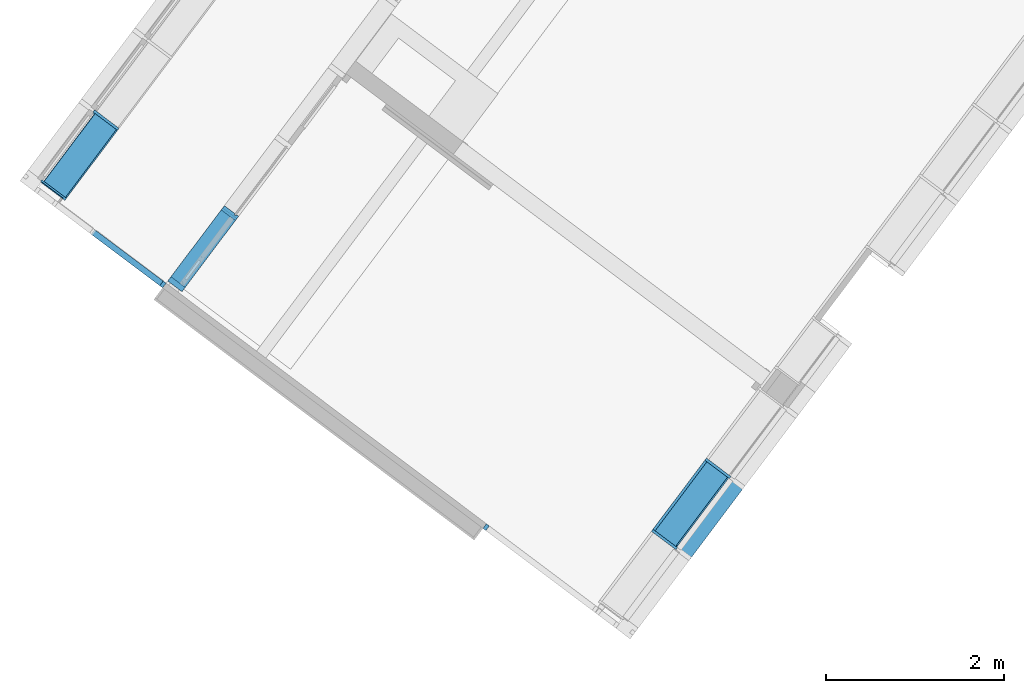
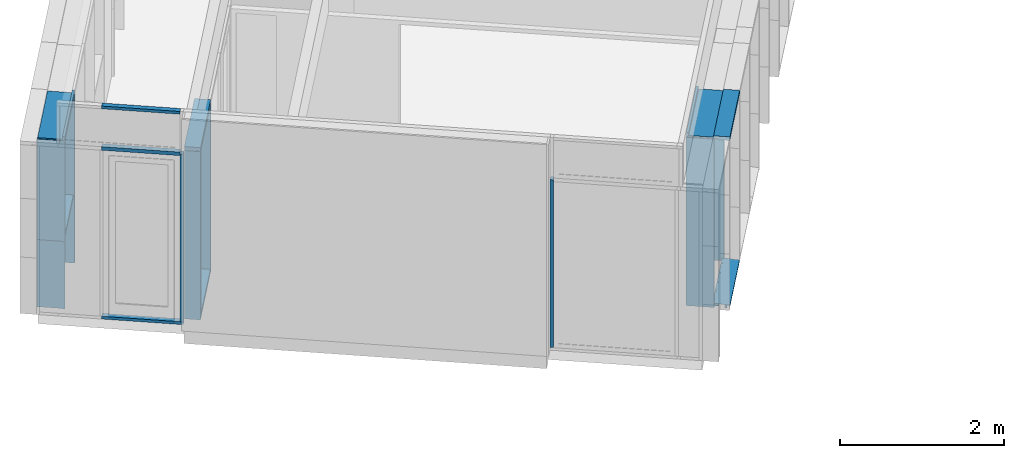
# One storey, part 36 of 243: 20 members, 6 elements without a shape of their own.
"""IFC2X3 building model written with IfcOpenShell, lengths in metres."""

import ifcopenshell
import ifcopenshell.guid

model = None  # the IFC model being written
_history = None  # IfcOwnerHistory: only IFC2X3 demands one
_inside = {}  # id of a spatial element -> (the spatial element, [elements in it])
_under = {}  # id of a project, library or spatial element -> (it, [spatial elements below it])
_declared = {}  # id of a project -> (the project, [libraries it declares])
_typed = {}  # id of a type object -> (the type object, [elements of that type])
_made_of = {}  # id of a material, layer set ... -> (it, [elements and type objects made of it])


def new_model(schema):
    """Start an empty IFC model of exactly this schema.

    Asked for "IFC4X3", IfcOpenShell would pick the latest addendum, in which some entities
    have other attributes; the version numbers below select the first issue.
    IFC2X3 requires an IfcOwnerHistory on every rooted entity: one is made here for all.
    """
    global model, _history
    if schema == "IFC4X3":
        model = ifcopenshell.file(schema_version=(4, 3, 0, 0))
    else:
        model = ifcopenshell.file(schema=schema)
    _inside.clear()
    _under.clear()
    _declared.clear()
    _typed.clear()
    _made_of.clear()
    _history = None
    if model.schema == "IFC2X3":
        org = make("IfcOrganization", Name="unknown")
        user = make(
            "IfcPersonAndOrganization",
            ThePerson=make("IfcPerson", FamilyName="unknown"),
            TheOrganization=org,
        )
        app = make(
            "IfcApplication",
            ApplicationDeveloper=org,
            Version="unknown",
            ApplicationFullName="unknown",
            ApplicationIdentifier="unknown",
        )
        _history = make(
            "IfcOwnerHistory",
            OwningUser=user,
            OwningApplication=app,
            ChangeAction="ADDED",
            CreationDate=0,
        )
    return model


def make(cls, **values):
    """One entity of the class cls with the attributes given. An attribute that is None is left unset."""
    return model.create_entity(
        cls, **{name: value for name, value in values.items() if value is not None}
    )


def entity(cls, *values):
    """Any entity or typed value of the class cls, its attributes in the order of the schema. None: left unset."""
    e = model.create_entity(cls)
    for i, value in enumerate(values):
        if value is not None:
            e[i] = value
    return e


def rooted(cls, **values):
    """An entity with a GlobalId (a new one), such as an element, a storey or a relation."""
    return make(cls, GlobalId=ifcopenshell.guid.new(), OwnerHistory=_history, **values)


def si_unit(unit_type, name, prefix=None):
    """IfcSIUnit, for example si_unit("LENGTHUNIT", "METRE", prefix="MILLI")."""
    return make("IfcSIUnit", UnitType=unit_type, Prefix=prefix, Name=name)


def converted_unit(unit_type, name, factor, base, dimensions=None, offset=None):
    """IfcConversionBasedUnit, such as the inch: factor (a typed value) times the base unit."""
    return make(
        "IfcConversionBasedUnit"
        if offset is None
        else "IfcConversionBasedUnitWithOffset",
        ConversionOffset=offset,
        Dimensions=None
        if dimensions is None
        else entity("IfcDimensionalExponents", *dimensions),
        UnitType=unit_type,
        Name=name,
        ConversionFactor=make(
            "IfcMeasureWithUnit", ValueComponent=factor, UnitComponent=base
        ),
    )


def derived_unit(unit_type, elements):
    """IfcDerivedUnit: a product of units, each with its exponent."""
    return make(
        "IfcDerivedUnit",
        Elements=[
            make("IfcDerivedUnitElement", Unit=unit, Exponent=power)
            for unit, power in elements
        ],
        UnitType=unit_type,
    )


def assignment(units):
    """IfcUnitAssignment: the units of a project."""
    return None if units is None else make("IfcUnitAssignment", Units=units)


def point(xyz):
    """IfcCartesianPoint."""
    return None if xyz is None else make("IfcCartesianPoint", Coordinates=xyz)


def direction(xyz):
    """IfcDirection."""
    return None if xyz is None else make("IfcDirection", DirectionRatios=xyz)


def frame(location, z_axis=None, x_axis=None):
    """IfcAxis2Placement3D, a coordinate frame: its origin and axes. An axis left out is left unset."""
    return make(
        "IfcAxis2Placement3D",
        Location=point(location),
        Axis=direction(z_axis),
        RefDirection=direction(x_axis),
    )


def frame_2d(location, x_axis=None):
    """IfcAxis2Placement2D, a coordinate frame in the plane: its origin and x axis."""
    return make(
        "IfcAxis2Placement2D", Location=point(location), RefDirection=direction(x_axis)
    )


def origin():
    """The frame at (0, 0, 0) with its axes left unset."""
    return frame((0.0, 0.0, 0.0))


def origin_2d_with_axis():
    """The frame at (0, 0) in the plane with the x axis (1, 0) written out."""
    return frame_2d((0.0, 0.0), x_axis=(1.0, 0.0))


def place(relative_to, where):
    """IfcLocalPlacement: puts the frame where relative to a parent placement (None: the world)."""
    return make(
        "IfcLocalPlacement", PlacementRelTo=relative_to, RelativePlacement=where
    )


def context(
    kind, dimensions, precision=None, world=None, true_north=None, identifier=None
):
    """IfcGeometricRepresentationContext, for example the 3D "Model" context."""
    return make(
        "IfcGeometricRepresentationContext",
        ContextIdentifier=identifier,
        ContextType=kind,
        CoordinateSpaceDimension=dimensions,
        Precision=precision,
        WorldCoordinateSystem=world,
        TrueNorth=true_north,
    )


def subcontext(parent, identifier, kind, view, scale=None):
    """IfcGeometricRepresentationSubContext, for example "Body" below "Model"."""
    return make(
        "IfcGeometricRepresentationSubContext",
        ContextIdentifier=identifier,
        ContextType=kind,
        ParentContext=parent,
        TargetScale=scale,
        TargetView=view,
    )


def project(units=None, contexts=None):
    """IfcProject with its units and contexts."""
    return rooted(
        "IfcProject",
        Name="project",
        RepresentationContexts=contexts,
        UnitsInContext=assignment(units),
    )


def spatial(cls, under=None, at=None, **own):
    """A site, building, storey or space (cls), placed at a placement, below another one or the project."""
    s = rooted(cls, ObjectPlacement=at, **own)
    if under is not None:
        _under.setdefault(under.id(), (under, []))[1].append(s)
    return s


def polyline(points):
    """IfcPolyline through the points."""
    return make("IfcPolyline", Points=[point(p) for p in points])


def circle_curve(where, radius):
    """IfcCircle in the frame where."""
    return make("IfcCircle", Position=where, Radius=radius)


def parameter(value):
    """IfcParameterValue: where a trimmed curve begins or ends, as a parameter of its basis curve."""
    return model.create_entity("IfcParameterValue", value)


def trimmed(basis, trim1, trim2, sense, master):
    """IfcTrimmedCurve: the piece of a basis curve between two trims."""
    return make(
        "IfcTrimmedCurve",
        BasisCurve=basis,
        Trim1=trim1,
        Trim2=trim2,
        SenseAgreement=sense,
        MasterRepresentation=master,
    )


def segment(curve, same_sense, transition):
    """IfcCompositeCurveSegment."""
    return make(
        "IfcCompositeCurveSegment",
        Transition=transition,
        SameSense=same_sense,
        ParentCurve=curve,
    )


def composite_curve(segments, self_intersect=None):
    """IfcCompositeCurve: segments joined end to end."""
    return make("IfcCompositeCurve", Segments=segments, SelfIntersect=self_intersect)


def profile(cls, at=None, kind="AREA", **sizes):
    """A parametric profile (cls). Its sizes go by their IFC names, for example OverallWidth=200.0."""
    return make(cls, ProfileType=kind, Position=at, **sizes)


def rectangle(**sizes):
    """IfcRectangleProfileDef."""
    return profile("IfcRectangleProfileDef", **sizes)


def outline(outer, holes=None, kind="AREA"):
    """IfcArbitraryClosedProfileDef: a profile drawn as a closed curve; with holes, ...WithVoids."""
    if holes is None:
        return make("IfcArbitraryClosedProfileDef", ProfileType=kind, OuterCurve=outer)
    return make(
        "IfcArbitraryProfileDefWithVoids",
        ProfileType=kind,
        OuterCurve=outer,
        InnerCurves=holes,
    )


def extrude(swept, where, along, depth):
    """IfcExtrudedAreaSolid: the profile swept, set in the frame where, extruded along a direction by depth."""
    return make(
        "IfcExtrudedAreaSolid",
        SweptArea=swept,
        Position=where,
        ExtrudedDirection=direction(along),
        Depth=depth,
    )


def shape(context_of_items, identifier, shape_type, items):
    """IfcShapeRepresentation: the items that make up one representation, for example the "Body"."""
    return make(
        "IfcShapeRepresentation",
        ContextOfItems=context_of_items,
        RepresentationIdentifier=identifier,
        RepresentationType=shape_type,
        Items=items,
    )


def source(mapping_origin, context_of_items, identifier, shape_type, items):
    """IfcRepresentationMap: a shape defined once, which mapped items show again and again."""
    return make(
        "IfcRepresentationMap",
        MappingOrigin=mapping_origin,
        MappedRepresentation=shape(context_of_items, identifier, shape_type, items),
    )


def transform(
    local_origin,
    x_axis=None,
    y_axis=None,
    z_axis=None,
    scale=None,
    scale2=None,
    scale3=None,
    uniform=True,
):
    """IfcCartesianTransformationOperator3D, or its non-uniform kind. x_axis, y_axis, z_axis: its Axis1, 2, 3."""
    if uniform:
        return make(
            "IfcCartesianTransformationOperator3D",
            Axis1=direction(x_axis),
            Axis2=direction(y_axis),
            LocalOrigin=point(local_origin),
            Scale=scale,
            Axis3=direction(z_axis),
        )
    return make(
        "IfcCartesianTransformationOperator3DnonUniform",
        Axis1=direction(x_axis),
        Axis2=direction(y_axis),
        LocalOrigin=point(local_origin),
        Scale=scale,
        Axis3=direction(z_axis),
        Scale2=scale2,
        Scale3=scale3,
    )


def mapped(mapping_source, mapping_target):
    """IfcMappedItem: shows the shape of a source again, moved by a transform."""
    return make(
        "IfcMappedItem", MappingSource=mapping_source, MappingTarget=mapping_target
    )


def material(Name=None, Category=None):
    """IfcMaterial."""
    return make("IfcMaterial", Name=Name, Category=Category)


def made_of(thing, what):
    """Note that an element or type object is made of a material, layer set ...; save() writes the relation."""
    if what is not None:
        _made_of.setdefault(what.id(), (what, []))[1].append(thing)
    return thing


def type_object(cls, material=None, **own):
    """A type object (cls), such as IfcWallType, which elements share."""
    return made_of(rooted(cls, **own), material)


def type_shapes(of_type, sources):
    """Give a type object the sources (RepresentationMaps) that its elements show as mapped items."""
    of_type.RepresentationMaps = sources


def element(
    cls,
    number,
    at=None,
    inside=None,
    cuts=None,
    type_object=None,
    material=None,
    context=None,
    identifier="Body",
    shape_type=None,
    held_by="IfcProductDefinitionShape",
    body=None,
    shapes=None,
    **own,
):
    """One element of the class cls, such as IfcWall. Its Tag is "e" and its number.

    at: its placement. inside: the storey or other place that contains it. cuts: it is an
    opening in that element (IfcRelVoidsElement). A single representation is given by context,
    identifier, shape_type and body (its items); several are given by shapes. held_by: the class
    of the entity that holds the representations. save() writes the other relations.
    """
    e = rooted(cls, Tag="e%d" % number, ObjectPlacement=at, **own)
    if body is not None:
        shapes = [shape(context, identifier, shape_type, body)]
    if shapes is not None:
        e.Representation = make(held_by, Representations=shapes)
    if inside is not None:
        _inside.setdefault(inside.id(), (inside, []))[1].append(e)
    if cuts is not None:
        rooted(
            "IfcRelVoidsElement", RelatingBuildingElement=cuts, RelatedOpeningElement=e
        )
    if type_object is not None:
        _typed.setdefault(type_object.id(), (type_object, []))[1].append(e)
    return made_of(e, material)


def aggregate(whole, parts):
    """IfcRelAggregates: a whole, such as a stair, and the parts it consists of."""
    return rooted("IfcRelAggregates", RelatingObject=whole, RelatedObjects=parts)


def save(model, path):
    """Write the relations noted so far, then the file.

    IfcRelAggregates (storeys below a building ...), IfcRelContainedInSpatialStructure (elements
    in a storey), IfcRelDefinesByType, IfcRelAssociatesMaterial and IfcRelDeclares: one each for
    every whole, place, type object, material and project.
    """
    for whole, parts in _under.values():
        aggregate(whole, parts)
    for where, things in _inside.values():
        rooted(
            "IfcRelContainedInSpatialStructure",
            RelatedElements=things,
            RelatingStructure=where,
        )
    for kind, things in _typed.values():
        rooted("IfcRelDefinesByType", RelatedObjects=things, RelatingType=kind)
    for what, things in _made_of.values():
        rooted("IfcRelAssociatesMaterial", RelatedObjects=things, RelatingMaterial=what)
    for by, libraries in _declared.values():
        rooted("IfcRelDeclares", RelatingContext=by, RelatedDefinitions=libraries)
    model.write(path)


model = new_model("IFC2X3")

# Units and contexts
model_context = context("Model", 3, precision=1e-05, world=origin(), true_north=direction((6.123031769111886e-17, 1.0)))
body_context = subcontext(model_context, "Body", "Model", "MODEL_VIEW")
ifc_project = project(units=[si_unit("LENGTHUNIT", "METRE"), si_unit("AREAUNIT", "SQUARE_METRE"), si_unit("VOLUMEUNIT", "CUBIC_METRE"), converted_unit("PLANEANGLEUNIT", "DEGREE", entity("IfcRatioMeasure", 0.017453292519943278), si_unit("PLANEANGLEUNIT", "RADIAN"), dimensions=[0, 0, 0, 0, 0, 0, 0]), si_unit("MASSUNIT", "GRAM", prefix="KILO"), derived_unit("MASSDENSITYUNIT", [(si_unit("MASSUNIT", "GRAM", prefix="KILO"), 1), (si_unit("LENGTHUNIT", "METRE"), -3)]), derived_unit("IONCONCENTRATIONUNIT", [(si_unit("MASSUNIT", "GRAM", prefix="KILO"), 1), (si_unit("LENGTHUNIT", "METRE"), -3)]), derived_unit("MOMENTOFINERTIAUNIT", [(si_unit("LENGTHUNIT", "METRE"), 4)]), si_unit("TIMEUNIT", "SECOND"), si_unit("FREQUENCYUNIT", "HERTZ"), si_unit("THERMODYNAMICTEMPERATUREUNIT", "DEGREE_CELSIUS"), derived_unit("THERMALTRANSMITTANCEUNIT", [(si_unit("MASSUNIT", "GRAM", prefix="KILO"), 1), (si_unit("THERMODYNAMICTEMPERATUREUNIT", "KELVIN"), -1), (si_unit("TIMEUNIT", "SECOND"), -3)]), derived_unit("THERMALCONDUCTANCEUNIT", [(si_unit("MASSUNIT", "GRAM", prefix="KILO"), 1), (si_unit("THERMODYNAMICTEMPERATUREUNIT", "KELVIN"), -1), (si_unit("TIMEUNIT", "SECOND"), -3), (si_unit("LENGTHUNIT", "METRE"), 1)]), derived_unit("VOLUMETRICFLOWRATEUNIT", [(si_unit("LENGTHUNIT", "METRE"), 3), (si_unit("TIMEUNIT", "SECOND"), -1)]), derived_unit("MASSFLOWRATEUNIT", [(si_unit("MASSUNIT", "GRAM", prefix="KILO"), 1), (si_unit("TIMEUNIT", "SECOND"), -1)]), derived_unit("ROTATIONALFREQUENCYUNIT", [(si_unit("TIMEUNIT", "SECOND"), -1)]), si_unit("ELECTRICCURRENTUNIT", "AMPERE"), si_unit("ELECTRICVOLTAGEUNIT", "VOLT"), si_unit("POWERUNIT", "WATT"), si_unit("FORCEUNIT", "NEWTON", prefix="KILO"), si_unit("ILLUMINANCEUNIT", "LUX"), si_unit("LUMINOUSFLUXUNIT", "LUMEN"), si_unit("LUMINOUSINTENSITYUNIT", "CANDELA"), derived_unit("USERDEFINED", [(si_unit("MASSUNIT", "GRAM", prefix="KILO"), -1), (si_unit("LENGTHUNIT", "METRE"), -2), (si_unit("TIMEUNIT", "SECOND"), 3), (si_unit("LUMINOUSFLUXUNIT", "LUMEN"), 1)]), derived_unit("USERDEFINED", [(si_unit("MASSUNIT", "GRAM", prefix="KILO"), 1), (si_unit("TIMEUNIT", "SECOND"), -3), (si_unit("LENGTHUNIT", "METRE"), 3), (si_unit("ELECTRICCURRENTUNIT", "AMPERE"), -2)]), derived_unit("SOUNDPOWERUNIT", [(si_unit("MASSUNIT", "GRAM", prefix="KILO"), 1), (si_unit("TIMEUNIT", "SECOND"), -3), (si_unit("LENGTHUNIT", "METRE"), 2)]), derived_unit("SOUNDPRESSUREUNIT", [(si_unit("MASSUNIT", "GRAM", prefix="KILO"), 1), (si_unit("LENGTHUNIT", "METRE"), -1), (si_unit("TIMEUNIT", "SECOND"), -2)]), derived_unit("LINEARVELOCITYUNIT", [(si_unit("LENGTHUNIT", "METRE"), 1), (si_unit("TIMEUNIT", "SECOND"), -1)]), si_unit("PRESSUREUNIT", "PASCAL"), derived_unit("USERDEFINED", [(si_unit("MASSUNIT", "GRAM", prefix="KILO"), 1), (si_unit("LENGTHUNIT", "METRE"), -2), (si_unit("TIMEUNIT", "SECOND"), -2)]), derived_unit("LINEARFORCEUNIT", [(si_unit("MASSUNIT", "GRAM", prefix="KILO"), 1), (si_unit("TIMEUNIT", "SECOND"), -2)]), derived_unit("PLANARFORCEUNIT", [(si_unit("MASSUNIT", "GRAM", prefix="KILO"), 1), (si_unit("LENGTHUNIT", "METRE"), -1), (si_unit("TIMEUNIT", "SECOND"), -2)]), derived_unit("SPECIFICHEATCAPACITYUNIT", [(si_unit("THERMODYNAMICTEMPERATUREUNIT", "KELVIN"), -1), (si_unit("LENGTHUNIT", "METRE"), 2), (si_unit("TIMEUNIT", "SECOND"), -2)]), derived_unit("HEATINGVALUEUNIT", [(si_unit("LENGTHUNIT", "METRE"), 2), (si_unit("TIMEUNIT", "SECOND"), -2)]), derived_unit("VAPORPERMEABILITYUNIT", [(si_unit("LENGTHUNIT", "METRE"), -1), (si_unit("TIMEUNIT", "SECOND"), 1)]), derived_unit("DYNAMICVISCOSITYUNIT", [(si_unit("MASSUNIT", "GRAM", prefix="KILO"), 1), (si_unit("TIMEUNIT", "SECOND"), -1), (si_unit("LENGTHUNIT", "METRE"), -1)]), derived_unit("THERMALEXPANSIONCOEFFICIENTUNIT", [(si_unit("THERMODYNAMICTEMPERATUREUNIT", "KELVIN"), -1)]), derived_unit("MODULUSOFELASTICITYUNIT", [(si_unit("MASSUNIT", "GRAM", prefix="KILO"), 1), (si_unit("LENGTHUNIT", "METRE"), -1), (si_unit("TIMEUNIT", "SECOND"), -2)]), derived_unit("ISOTHERMALMOISTURECAPACITYUNIT", [(si_unit("LENGTHUNIT", "METRE"), 3), (si_unit("MASSUNIT", "GRAM", prefix="KILO"), -1)]), derived_unit("MOISTUREDIFFUSIVITYUNIT", [(si_unit("TIMEUNIT", "SECOND"), -1), (si_unit("LENGTHUNIT", "METRE"), 2)])], contexts=[model_context])

# Site, building, storey
site_placement = place(None, frame((0.0, 0.0, 235.0), z_axis=(0.0, 0.0, 1.0), x_axis=(-0.7996477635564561, 0.6004693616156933, 0.0)))
site = spatial("IfcSite", under=ifc_project, at=site_placement, Name="Default", CompositionType="ELEMENT")
building_placement = place(site_placement, origin())
building = spatial("IfcBuilding", under=site, at=building_placement, CompositionType="ELEMENT")
storey_placement = place(building_placement, origin())
storey = spatial("IfcBuildingStorey", under=building, at=storey_placement, Name="P0- Escola", CompositionType="ELEMENT", Elevation=0.0)

# Curtain wall, members
curtain_wall_type_1 = type_object("IfcCurtainWallType", Name="Muro cortina:MC- INT- a1", PredefinedType="NOTDEFINED")
curtain_wall_1_placement = place(storey_placement, origin())
curtain_wall_1 = element("IfcCurtainWall", 1, at=curtain_wall_1_placement, inside=storey, type_object=curtain_wall_type_1, Name="Muro cortina:MC- INT- a1", ObjectType="Muro cortina:MC- INT- a1")
ifc_material_1 = material(Name="_Fusta massisa- T1")
member_type_1 = type_object("IfcMemberType", Name="Montante rectangular:MC- Fusta- 20x6 cm- Neutre", PredefinedType="MULLION", material=ifc_material_1)
shared_shape_1 = source(origin(), body_context, "Body", "SweptSolid", [
    extrude(rectangle(XDim=0.19999999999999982, YDim=0.06, at=frame_2d((5.551115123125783e-17, 0.0), x_axis=(1.0, 0.0))), frame((-0.03, -0.060000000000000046, -2.5050000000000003), z_axis=(0.0, 0.0, 1.0), x_axis=(0.0, -1.0, 0.0)), (0.0, 0.0, 1.0), 2.5050000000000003),
])
type_shapes(member_type_1, [shared_shape_1])
member_1_placement = place(curtain_wall_1_placement, frame((72.72014768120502, -20.38519175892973, 2.5050000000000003), z_axis=(0.0, 0.0, 1.0), x_axis=(0.0, 1.0, 0.0)))
member_1 = element("IfcMember", 2, at=member_1_placement, type_object=member_type_1, material=ifc_material_1, Name="Montante rectangular:MC- Fusta- 20x6 cm- Neutre", ObjectType="Montante rectangular:MC- Fusta- 20x6 cm- Neutre", context=body_context, shape_type="MappedRepresentation", body=[
    mapped(shared_shape_1, transform((0.0, 0.0, 0.0), scale=1.0)),
])
member_type_2 = type_object("IfcMemberType", Name="Montante rectangular:MC- Fusta- 20x6 cm- Dreta", PredefinedType="MULLION", material=ifc_material_1)
shared_shape_2 = source(origin(), body_context, "Body", "SweptSolid", [
    extrude(outline(polyline([(-0.07000000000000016, -0.041249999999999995), (0.13000000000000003, -0.041249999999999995), (0.13000000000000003, 0.01875), (-0.019999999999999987, 0.01875), (-0.019999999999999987, 0.00375), (-0.04000000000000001, 0.00375), (-0.03999999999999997, 0.01875), (-0.06999999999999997, 0.01875), (-0.07000000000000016, -0.041249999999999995)])), frame((0.011250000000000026, -0.02999999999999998, -2.5050000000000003), z_axis=(0.0, 0.0, 1.0), x_axis=(0.0, -1.0, 0.0)), (0.0, 0.0, 1.0), 2.5050000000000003),
])
type_shapes(member_type_2, [shared_shape_2])
member_2_placement = place(curtain_wall_1_placement, frame((72.72014768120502, -21.415189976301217, 0.0), z_axis=(0.0, 0.0, -1.0), x_axis=(0.0, -1.0, 0.0)))
member_2 = element("IfcMember", 3, at=member_2_placement, type_object=member_type_2, material=ifc_material_1, Name="Montante rectangular:MC- Fusta- 20x6 cm- Dreta", ObjectType="Montante rectangular:MC- Fusta- 20x6 cm- Dreta", context=body_context, shape_type="MappedRepresentation", body=[
    mapped(shared_shape_2, transform((0.0, 0.0, 0.0), scale=1.0)),
])
member_type_3 = type_object("IfcMemberType", Name="Montante rectangular:MC- Fusta- 20x6 cm- Esquerra", PredefinedType="MULLION", material=ifc_material_1)
shared_shape_3 = source(origin(), body_context, "Body", "SweptSolid", [
    extrude(outline(polyline([(-0.07000000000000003, -0.01875000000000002), (-0.04000000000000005, -0.01875000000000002), (-0.04000000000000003, -0.0037500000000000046), (-0.020000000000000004, -0.0037500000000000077), (-0.02, -0.018750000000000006), (0.13, -0.018749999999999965), (0.12999999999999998, 0.04125000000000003), (-0.06999999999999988, 0.04124999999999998), (-0.07000000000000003, -0.01875000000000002)])), frame((-0.041249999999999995, -0.03, -1.0299999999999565), z_axis=(0.0, 0.0, 1.0), x_axis=(0.0, -1.0, 0.0)), (0.0, 0.0, 1.0), 1.0299999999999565),
])
type_shapes(member_type_3, [shared_shape_3])
member_3_placement = place(curtain_wall_1_placement, frame((72.72014768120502, -21.415189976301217, 2.565), z_axis=(0.0, -1.0, 0.0), x_axis=(0.0, 0.0, 1.0)))
member_3 = element("IfcMember", 4, at=member_3_placement, type_object=member_type_3, material=ifc_material_1, Name="Montante rectangular:MC- Fusta- 20x6 cm- Esquerra", ObjectType="Montante rectangular:MC- Fusta- 20x6 cm- Esquerra", context=body_context, shape_type="MappedRepresentation", body=[
    mapped(shared_shape_3, transform((0.0, 0.0, 0.0), scale=1.0)),
])
member_type_4 = type_object("IfcMemberType", Name="Montante rectangular:MC- Fusta- 20x6 cm- Neutre", PredefinedType="MULLION", material=ifc_material_1)
shared_shape_4 = source(origin(), body_context, "Body", "SweptSolid", [
    extrude(rectangle(XDim=0.19999999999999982, YDim=0.06, at=frame_2d((5.551115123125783e-17, 0.0), x_axis=(1.0, 0.0))), frame((-0.03, -0.060000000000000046, -0.9399982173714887), z_axis=(0.0, 0.0, 1.0), x_axis=(0.0, -1.0, 0.0)), (0.0, 0.0, 1.0), 0.9399982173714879),
])
type_shapes(member_type_4, [shared_shape_4])
member_4_placement = place(curtain_wall_1_placement, frame((72.72014768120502, -20.445191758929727, 0.0), z_axis=(0.0, 1.0, 0.0), x_axis=(0.0, 0.0, -1.0)))
member_4 = element("IfcMember", 5, at=member_4_placement, type_object=member_type_4, material=ifc_material_1, Name="Montante rectangular:MC- Fusta- 20x6 cm- Neutre", ObjectType="Montante rectangular:MC- Fusta- 20x6 cm- Neutre", context=body_context, shape_type="MappedRepresentation", body=[
    mapped(shared_shape_4, transform((0.0, 0.0, 0.0), scale=1.0)),
])
aggregate(curtain_wall_1, [member_1, member_3, member_2, member_4])

curtain_wall_type_2 = type_object("IfcCurtainWallType", Name="Muro cortina:MC- EXT- MC2", PredefinedType="NOTDEFINED")
curtain_wall_2_placement = place(storey_placement, origin())
curtain_wall_2 = element("IfcCurtainWall", 6, at=curtain_wall_2_placement, inside=storey, type_object=curtain_wall_type_2, Name="Muro cortina:MC- EXT- MC2", ObjectType="Muro cortina:MC- EXT- MC2")
ifc_material_2 = material(Name="_Alumini- T1- Perfil")
member_type_5 = type_object("IfcMemberType", Name="Montante rectangular:MC- Alu- 140x52,5 cm- Fa patis- Superior", PredefinedType="MULLION", material=ifc_material_2)
shared_shape_5 = source(origin(), body_context, "Body", "SweptSolid", [
    extrude(outline(polyline([(-0.11366666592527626, -0.021249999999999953), (0.026333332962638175, -0.021249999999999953), (0.026333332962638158, -0.010000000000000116), (0.0873333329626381, -0.010000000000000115), (0.0873333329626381, 0.03125000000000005), (-0.11366666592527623, 0.031250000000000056), (-0.11366666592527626, -0.021249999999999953)])), frame((-0.031250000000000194, 0.0273333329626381, -1.0), z_axis=(0.0, 0.0, 1.0), x_axis=(0.0, -1.0, 0.0)), (0.0, 0.0, 1.0), 0.9999999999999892),
])
type_shapes(member_type_5, [shared_shape_5])
member_5_placement = place(curtain_wall_2_placement, frame((66.44514768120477, -22.4151917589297, 2.545), z_axis=(0.0, -1.0, 0.0), x_axis=(0.0, 0.0, 1.0)))
member_5 = element("IfcMember", 7, at=member_5_placement, type_object=member_type_5, material=ifc_material_2, Name="Montante rectangular:MC- Alu- 140x52,5 cm- Fa patis- Superior", ObjectType="Montante rectangular:MC- Alu- 140x52,5 cm- Fa patis- Superior", context=body_context, shape_type="MappedRepresentation", body=[
    mapped(shared_shape_5, transform((0.0, 0.0, 0.0), scale=1.0)),
])
member_type_6 = type_object("IfcMemberType", Name="Montante rectangular:MC- Alu- 140x52,5 cm- Fa patis- inferior", PredefinedType="MULLION", material=ifc_material_2)
shared_shape_6 = source(origin(), body_context, "Body", "SweptSolid", [
    extrude(outline(composite_curve([segment(polyline([(0.1278672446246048, -0.02586710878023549), (0.14416724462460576, -0.025867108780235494)]), True, "CONTINUOUS"), segment(polyline([(0.14416724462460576, -0.025867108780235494), (0.1441672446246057, 0.009132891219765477)]), True, "CONTINUOUS"), segment(polyline([(0.1441672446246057, 0.009132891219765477), (0.06786724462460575, 0.009132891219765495)]), True, "CONTINUOUS"), segment(polyline([(0.06786724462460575, 0.009132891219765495), (0.06786724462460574, -0.021159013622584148)]), True, "CONTINUOUS"), segment(polyline([(0.06786724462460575, -0.02115901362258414), (-0.030132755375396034, -0.012332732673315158)]), True, "CONTINUOUS"), segment(polyline([(-0.03013275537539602, -0.012332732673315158), (-0.030132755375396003, 0.027132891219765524)]), True, "CONTINUOUS"), segment(polyline([(-0.030132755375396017, 0.02713289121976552), (-0.0021327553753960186, 0.02713289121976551)]), True, "CONTINUOUS"), segment(polyline([(-0.0021327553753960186, 0.027132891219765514), (-0.0021327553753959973, 0.029132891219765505)]), True, "CONTINUOUS"), segment(polyline([(-0.0021327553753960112, 0.029132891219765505), (-0.032132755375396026, 0.029132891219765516)]), True, "CONTINUOUS"), segment(polyline([(-0.032132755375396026, 0.029132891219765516), (-0.03213275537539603, -0.012152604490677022)]), True, "CONTINUOUS"), segment(polyline([(-0.03213275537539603, -0.012152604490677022), (-0.0701327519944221, -0.008730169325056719)]), True, "CONTINUOUS"), segment(polyline([(-0.0701327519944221, -0.008730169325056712), (-0.0701327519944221, 0.005766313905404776)]), True, "CONTINUOUS"), segment(trimmed(circle_curve(frame_2d((-0.0696327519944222, 0.0057663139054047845), x_axis=(-1.0, 0.0)), 0.0004999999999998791), [parameter(269.999999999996)], [parameter(0.0)], True, "PARAMETER"), False, "CONTINUOUS"), segment(polyline([(-0.0696327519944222, 0.00626631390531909), (-0.06213275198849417, 0.006266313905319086)]), True, "CONTINUOUS"), segment(polyline([(-0.06213275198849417, 0.006266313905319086), (-0.06213275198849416, 0.008266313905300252)]), True, "CONTINUOUS"), segment(polyline([(-0.06213275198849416, 0.008266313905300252), (-0.07013275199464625, 0.008266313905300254)]), True, "CONTINUOUS"), segment(trimmed(circle_curve(frame_2d((-0.07013275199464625, 0.006266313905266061), x_axis=(0.0, 1.0)), 0.0020000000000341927), [parameter(0.0)], [parameter(90.00000002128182)], True, "PARAMETER"), True, "CONTINUOUS"), segment(polyline([(-0.07213275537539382, 0.006266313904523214), (-0.07213275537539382, -0.008730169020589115)]), True, "CONTINUOUS"), segment(trimmed(circle_curve(frame_2d((-0.07013275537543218, -0.008730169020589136), x_axis=(-1.0, 0.0)), 0.0019999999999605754), [parameter(0.0)], [parameter(84.85359280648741)], True, "PARAMETER"), True, "CONTINUOUS"), segment(polyline([(-0.07031215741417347, -0.01072210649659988), (0.06786724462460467, -0.023167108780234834)]), True, "CONTINUOUS"), segment(polyline([(0.06786724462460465, -0.023167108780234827), (0.12786724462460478, -0.023167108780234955)]), True, "CONTINUOUS"), segment(polyline([(0.12786724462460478, -0.023167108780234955), (0.1278672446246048, -0.02586710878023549)]), True, "CONTINUOUS")], self_intersect=False)), frame((-0.029132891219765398, 0.06786724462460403, -0.9737499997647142), z_axis=(0.0, 0.0, 1.0), x_axis=(0.0, -1.0, 0.0)), (0.0, 0.0, 1.0), 0.9737499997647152),
])
type_shapes(member_type_6, [shared_shape_6])
member_6_placement = place(curtain_wall_2_placement, frame((66.44514768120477, -21.441441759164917, -0.02), z_axis=(0.0, 1.0, 0.0), x_axis=(0.0, 0.0, -1.0)))
member_6 = element("IfcMember", 8, at=member_6_placement, type_object=member_type_6, material=ifc_material_2, Name="Montante rectangular:MC- Alu- 140x52,5 cm- Fa patis- inferior", ObjectType="Montante rectangular:MC- Alu- 140x52,5 cm- Fa patis- inferior", context=body_context, shape_type="MappedRepresentation", body=[
    mapped(shared_shape_6, transform((0.0, 0.0, 0.0), scale=1.0)),
])
aggregate(curtain_wall_2, [member_6, member_5])

curtain_wall_type_3 = type_object("IfcCurtainWallType", Name="Muro cortina:MC- INT- k7- Aules infantil", PredefinedType="NOTDEFINED")
curtain_wall_3_placement = place(storey_placement, origin())
curtain_wall_3 = element("IfcCurtainWall", 9, at=curtain_wall_3_placement, inside=storey, type_object=curtain_wall_type_3, Name="Muro cortina:MC- INT- k7- Aules infantil", ObjectType="Muro cortina:MC- INT- k7- Aules infantil")
member_type_7 = type_object("IfcMemberType", Name="Montante rectangular:MC- Fusta- 35x3 cm- Centre", PredefinedType="MULLION", material=ifc_material_1)
shared_shape_7 = source(origin(), body_context, "Body", "SweptSolid", [
    extrude(rectangle(XDim=0.3450000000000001, YDim=0.030000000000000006, at=frame_2d((0.0, 1.3964523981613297e-16), x_axis=(1.0, 0.0))), frame((0.0, 0.07750000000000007, -2.5049999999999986), z_axis=(0.0, 0.0, 1.0), x_axis=(0.0, -1.0, 0.0)), (0.0, 0.0, 1.0), 2.5049999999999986),
])
type_shapes(member_type_7, [shared_shape_7])
member_7_placement = place(curtain_wall_3_placement, frame((66.74514768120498, -21.41519175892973, 0.0), z_axis=(0.0, 0.0, -1.0), x_axis=(0.0, -1.0, 0.0)))
member_7 = element("IfcMember", 10, at=member_7_placement, type_object=member_type_7, material=ifc_material_1, Name="Montante rectangular:MC- Fusta- 35x3 cm- Centre", ObjectType="Montante rectangular:MC- Fusta- 35x3 cm- Centre", context=body_context, shape_type="MappedRepresentation", body=[
    mapped(shared_shape_7, transform((0.0, 0.0, 0.0), scale=1.0)),
])
member_8_placement = place(curtain_wall_3_placement, frame((66.74514768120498, -22.415191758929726, 0.0), z_axis=(0.0, 0.0, -1.0), x_axis=(0.0, -1.0, 0.0)))
member_8 = element("IfcMember", 11, at=member_8_placement, type_object=member_type_7, material=ifc_material_1, Name="Montante rectangular:MC- Fusta- 35x3 cm- Centre", ObjectType="Montante rectangular:MC- Fusta- 35x3 cm- Centre", context=body_context, shape_type="MappedRepresentation", body=[
    mapped(shared_shape_7, transform((0.0, 0.0, 0.0), scale=1.0)),
])
member_type_8 = type_object("IfcMemberType", Name="Montante rectangular:MC- Fusta- 35x3 cm- Pati aules- Remat superior", PredefinedType="MULLION", material=ifc_material_1)
shared_shape_8 = source(origin(), body_context, "Body", "SweptSolid", [
    extrude(outline(polyline([(-0.21333333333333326, -0.02666666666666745), (0.1216666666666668, -0.02666666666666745), (0.12166666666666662, 0.03333333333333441), (0.09166666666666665, 0.03333333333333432), (0.09166666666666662, -0.006666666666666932), (-0.2133333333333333, -0.006666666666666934), (-0.21333333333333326, -0.02666666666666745)])), frame((-0.033333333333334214, 0.026666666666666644, -1.0), z_axis=(0.0, 0.0, 1.0), x_axis=(0.0, -1.0, 0.0)), (0.0, 0.0, 1.0), 0.9999999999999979),
])
type_shapes(member_type_8, [shared_shape_8])
member_9_placement = place(curtain_wall_3_placement, frame((66.74514768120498, -22.415191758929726, 2.565), z_axis=(0.0, -1.0, 0.0), x_axis=(0.0, 0.0, 1.0)))
member_9 = element("IfcMember", 12, at=member_9_placement, type_object=member_type_8, material=ifc_material_1, Name="Montante rectangular:MC- Fusta- 35x3 cm- Pati aules- Remat superior", ObjectType="Montante rectangular:MC- Fusta- 35x3 cm- Pati aules- Remat superior", context=body_context, shape_type="MappedRepresentation", body=[
    mapped(shared_shape_8, transform((0.0, 0.0, 0.0), scale=1.0)),
])
aggregate(curtain_wall_3, [member_7, member_9, member_8])

curtain_wall_type_4 = type_object("IfcCurtainWallType", Name="Muro cortina:MC- INT- k2", PredefinedType="NOTDEFINED")
curtain_wall_4_placement = place(storey_placement, origin())
curtain_wall_4 = element("IfcCurtainWall", 13, at=curtain_wall_4_placement, inside=storey, type_object=curtain_wall_type_4, Name="Muro cortina:MC- INT- k2", ObjectType="Muro cortina:MC- INT- k2")
member_type_9 = type_object("IfcMemberType", Name="Montante rectangular:MC- Fusta- 35x3 cm- Pati aules- Remat esquerra", PredefinedType="MULLION", material=ifc_material_1)
shared_shape_9 = source(origin(), body_context, "Body", "SweptSolid", [
    extrude(outline(polyline([(-0.12500000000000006, -0.01666666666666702), (0.22000000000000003, -0.01666666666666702), (0.22000000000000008, 0.003333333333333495), (-0.09499999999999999, 0.003333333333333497), (-0.09500000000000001, 0.013333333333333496), (-0.12499999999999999, 0.013333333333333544), (-0.12500000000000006, -0.01666666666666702)])), frame((-0.013333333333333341, -0.030000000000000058, -1.5049999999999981), z_axis=(0.0, 0.0, 1.0), x_axis=(0.0, -1.0, 0.0)), (0.0, 0.0, 1.0), 1.5049999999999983),
])
type_shapes(member_type_9, [shared_shape_9])
member_10_placement = place(curtain_wall_4_placement, frame((74.445147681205, -20.41519175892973, 2.5049999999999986), z_axis=(0.0, 0.0, 1.0), x_axis=(0.0, 1.0, 0.0)))
member_10 = element("IfcMember", 14, at=member_10_placement, type_object=member_type_9, material=ifc_material_1, Name="Montante rectangular:MC- Fusta- 35x3 cm- Pati aules- Remat esquerra", ObjectType="Montante rectangular:MC- Fusta- 35x3 cm- Pati aules- Remat esquerra", context=body_context, shape_type="MappedRepresentation", body=[
    mapped(shared_shape_9, transform((0.0, 0.0, 0.0), scale=1.0)),
])
member_type_10 = type_object("IfcMemberType", Name="Montante rectangular:MC- Fusta- 35x3 cm- Pati aules- Remat superior", PredefinedType="MULLION", material=ifc_material_1)
shared_shape_10 = source(origin(), body_context, "Body", "SweptSolid", [
    extrude(outline(polyline([(-0.12166666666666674, -0.02666666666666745), (0.21333333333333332, -0.02666666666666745), (0.2133333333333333, -0.006666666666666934), (-0.09166666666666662, -0.006666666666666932), (-0.09166666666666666, 0.03333333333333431), (-0.12166666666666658, 0.03333333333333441), (-0.12166666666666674, -0.02666666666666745)])), frame((-0.033333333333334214, -0.026666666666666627, -1.0), z_axis=(0.0, 0.0, 1.0), x_axis=(0.0, -1.0, 0.0)), (0.0, 0.0, 1.0), 0.9999999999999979),
])
type_shapes(member_type_10, [shared_shape_10])
member_11_placement = place(curtain_wall_4_placement, frame((74.445147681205, -21.41519175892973, 2.565), z_axis=(0.0, -1.0, 0.0), x_axis=(0.0, 0.0, 1.0)))
member_11 = element("IfcMember", 15, at=member_11_placement, type_object=member_type_10, material=ifc_material_1, Name="Montante rectangular:MC- Fusta- 35x3 cm- Pati aules- Remat superior", ObjectType="Montante rectangular:MC- Fusta- 35x3 cm- Pati aules- Remat superior", context=body_context, shape_type="MappedRepresentation", body=[
    mapped(shared_shape_10, transform((0.0, 0.0, 0.0), scale=1.0)),
])
member_type_11 = type_object("IfcMemberType", Name="Montante rectangular:MC- Fusta- 35x3 cm- Centre", PredefinedType="MULLION", material=ifc_material_1)
shared_shape_11 = source(origin(), body_context, "Body", "SweptSolid", [
    extrude(rectangle(XDim=0.3450000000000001, YDim=0.030000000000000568, at=frame_2d((0.0, -1.3964523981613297e-16), x_axis=(1.0, 0.0))), frame((0.0, -0.07750000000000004, -1.0), z_axis=(0.0, 0.0, 1.0), x_axis=(0.0, -1.0, 0.0)), (0.0, 0.0, 1.0), 1.0),
])
type_shapes(member_type_11, [shared_shape_11])
member_12_placement = place(curtain_wall_4_placement, frame((74.445147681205, -21.41519175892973, 0.0), z_axis=(0.0, 0.0, -1.0), x_axis=(0.0, -1.0, 0.0)))
member_12 = element("IfcMember", 16, at=member_12_placement, type_object=member_type_11, material=ifc_material_1, Name="Montante rectangular:MC- Fusta- 35x3 cm- Centre", ObjectType="Montante rectangular:MC- Fusta- 35x3 cm- Centre", context=body_context, shape_type="MappedRepresentation", body=[
    mapped(shared_shape_11, transform((0.0, 0.0, 0.0), scale=1.0)),
])
member_type_12 = type_object("IfcMemberType", Name="Montante rectangular:MC- Fusta- 35x3 cm- Pati aules- Remat esquerra", PredefinedType="MULLION", material=ifc_material_1)
shared_shape_12 = source(origin(), body_context, "Body", "SweptSolid", [
    extrude(outline(polyline([(-0.12500000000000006, -0.01666666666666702), (0.22000000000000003, -0.01666666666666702), (0.22000000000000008, 0.003333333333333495), (-0.09499999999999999, 0.003333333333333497), (-0.09500000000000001, 0.013333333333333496), (-0.12499999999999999, 0.013333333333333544), (-0.12500000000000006, -0.01666666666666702)])), frame((-0.013333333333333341, -0.030000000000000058, -1.0), z_axis=(0.0, 0.0, 1.0), x_axis=(0.0, -1.0, 0.0)), (0.0, 0.0, 1.0), 0.9999999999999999),
])
type_shapes(member_type_12, [shared_shape_12])
member_13_placement = place(curtain_wall_4_placement, frame((74.445147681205, -20.41519175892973, 1.0), z_axis=(0.0, 0.0, 1.0), x_axis=(0.0, 1.0, 0.0)))
member_13 = element("IfcMember", 17, at=member_13_placement, type_object=member_type_12, material=ifc_material_1, Name="Montante rectangular:MC- Fusta- 35x3 cm- Pati aules- Remat esquerra", ObjectType="Montante rectangular:MC- Fusta- 35x3 cm- Pati aules- Remat esquerra", context=body_context, shape_type="MappedRepresentation", body=[
    mapped(shared_shape_12, transform((0.0, 0.0, 0.0), scale=1.0)),
])
member_type_13 = type_object("IfcMemberType", Name="Montante rectangular:MC- Fusta- 35x3 cm- Pati aules- Prestatge", PredefinedType="MULLION", material=ifc_material_1)
shared_shape_13 = source(origin(), body_context, "Body", "SweptSolid", [
    extrude(rectangle(XDim=0.30000000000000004, YDim=0.03000000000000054, at=frame_2d((0.0, -1.231653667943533e-16), x_axis=(1.0, 0.0))), frame((0.0, -0.07000000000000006, -0.9549999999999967), z_axis=(0.0, 0.0, 1.0), x_axis=(0.0, -1.0, 0.0)), (0.0, 0.0, 1.0), 0.954999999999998),
])
type_shapes(member_type_13, [shared_shape_13])
member_14_placement = place(curtain_wall_4_placement, frame((74.445147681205, -21.40019175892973, 1.0), z_axis=(0.0, -1.0, 0.0), x_axis=(0.0, 0.0, 1.0)))
member_14 = element("IfcMember", 18, at=member_14_placement, type_object=member_type_13, material=ifc_material_1, Name="Montante rectangular:MC- Fusta- 35x3 cm- Pati aules- Prestatge", ObjectType="Montante rectangular:MC- Fusta- 35x3 cm- Pati aules- Prestatge", context=body_context, shape_type="MappedRepresentation", body=[
    mapped(shared_shape_13, transform((0.0, 0.0, 0.0), scale=1.0)),
])
member_type_14 = type_object("IfcMemberType", Name="Montante rectangular:MC- Fusta- 35x3 cm- Centre", PredefinedType="MULLION", material=ifc_material_1)
shared_shape_14 = source(origin(), body_context, "Body", "SweptSolid", [
    extrude(rectangle(XDim=0.3450000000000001, YDim=0.030000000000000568, at=frame_2d((0.0, -1.3964523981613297e-16), x_axis=(1.0, 0.0))), frame((0.0, -0.07750000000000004, -1.504999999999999), z_axis=(0.0, 0.0, 1.0), x_axis=(0.0, -1.0, 0.0)), (0.0, 0.0, 1.0), 1.504999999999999),
])
type_shapes(member_type_14, [shared_shape_14])
member_15_placement = place(curtain_wall_4_placement, frame((74.445147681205, -21.41519175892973, 1.0), z_axis=(0.0, 0.0, -1.0), x_axis=(0.0, -1.0, 0.0)))
member_15 = element("IfcMember", 19, at=member_15_placement, type_object=member_type_14, material=ifc_material_1, Name="Montante rectangular:MC- Fusta- 35x3 cm- Centre", ObjectType="Montante rectangular:MC- Fusta- 35x3 cm- Centre", context=body_context, shape_type="MappedRepresentation", body=[
    mapped(shared_shape_14, transform((0.0, 0.0, 0.0), scale=1.0)),
])
aggregate(curtain_wall_4, [member_10, member_11, member_12, member_13, member_14, member_15])

curtain_wall_type_5 = type_object("IfcCurtainWallType", Name="Muro cortina:MC- EXT- AL1- Fa porxo", PredefinedType="NOTDEFINED")
curtain_wall_5_placement = place(storey_placement, origin())
curtain_wall_5 = element("IfcCurtainWall", 20, at=curtain_wall_5_placement, inside=storey, type_object=curtain_wall_type_5, Name="Muro cortina:MC- EXT- AL1- Fa porxo", ObjectType="Muro cortina:MC- EXT- AL1- Fa porxo")
member_type_15 = type_object("IfcMemberType", Name="Montante rectangular:MC- Alu- 65x41 cm- Fa Porxo- Centre", PredefinedType="MULLION", material=ifc_material_2)
shared_shape_15 = source(origin(), body_context, "Body", "SweptSolid", [
    extrude(rectangle(XDim=0.06500000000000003, YDim=0.041000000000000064, at=frame_2d((0.0, -8.673617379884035e-18), x_axis=(1.0, 0.0))), frame((-0.020500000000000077, -0.032499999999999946, -0.9639999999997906), z_axis=(0.0, 0.0, 1.0), x_axis=(0.0, -1.0, 0.0)), (0.0, 0.0, 1.0), 0.963999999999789),
])
type_shapes(member_type_15, [shared_shape_15])
member_16_placement = place(curtain_wall_5_placement, frame((72.92114768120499, -20.288941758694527, 3.150000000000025), z_axis=(-1.0, 0.0, 0.0), x_axis=(0.0, 0.0, 1.0)))
member_16 = element("IfcMember", 21, at=member_16_placement, type_object=member_type_15, material=ifc_material_2, Name="Montante rectangular:MC- Alu- 65x41 cm- Fa Porxo- Centre", ObjectType="Montante rectangular:MC- Alu- 65x41 cm- Fa Porxo- Centre", context=body_context, shape_type="MappedRepresentation", body=[
    mapped(shared_shape_15, transform((0.0, 0.0, 0.0), scale=1.0)),
])
member_type_16 = type_object("IfcMemberType", Name="Montante rectangular:MC- Alu- 65x41 cm- Fa Porxo- Centre", PredefinedType="MULLION", material=ifc_material_2)
shared_shape_16 = source(origin(), body_context, "Body", "SweptSolid", [
    extrude(rectangle(XDim=0.06500000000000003, YDim=0.041000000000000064, at=frame_2d((0.0, -8.673617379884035e-18), x_axis=(1.0, 0.0))), frame((-0.020500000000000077, -0.032499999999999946, -2.4977500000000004), z_axis=(0.0, 0.0, 1.0), x_axis=(0.0, -1.0, 0.0)), (0.0, 0.0, 1.0), 2.4977500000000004),
])
type_shapes(member_type_16, [shared_shape_16])
member_17_placement = place(curtain_wall_5_placement, frame((72.88014768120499, -20.288941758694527, 0.021000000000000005), z_axis=(0.0, 0.0, -1.0), x_axis=(-1.0, 0.0, 0.0)))
member_17 = element("IfcMember", 22, at=member_17_placement, type_object=member_type_16, material=ifc_material_2, Name="Montante rectangular:MC- Alu- 65x41 cm- Fa Porxo- Centre", ObjectType="Montante rectangular:MC- Alu- 65x41 cm- Fa Porxo- Centre", context=body_context, shape_type="MappedRepresentation", body=[
    mapped(shared_shape_16, transform((0.0, 0.0, 0.0), scale=1.0)),
])
member_type_17 = type_object("IfcMemberType", Name="Montante rectangular:MC- Alu- 65x41 cm- Fa Porxo- Centre", PredefinedType="MULLION", material=ifc_material_2)
shared_shape_17 = source(origin(), body_context, "Body", "SweptSolid", [
    extrude(rectangle(XDim=0.06500000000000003, YDim=0.041000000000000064, at=frame_2d((3.469446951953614e-18, -5.204170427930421e-18), x_axis=(1.0, 0.0))), frame((-0.020499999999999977, -0.032499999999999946, -1.004999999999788), z_axis=(0.0, 0.0, 1.0), x_axis=(0.0, -1.0, 0.0)), (0.0, 0.0, 1.0), 1.004999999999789),
])
type_shapes(member_type_17, [shared_shape_17])
member_18_placement = place(curtain_wall_5_placement, frame((73.88514768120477, -20.28894175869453, -0.02000000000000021), z_axis=(1.0, 0.0, 0.0), x_axis=(0.0, 0.0, -1.0)))
member_18 = element("IfcMember", 23, at=member_18_placement, type_object=member_type_17, material=ifc_material_2, Name="Montante rectangular:MC- Alu- 65x41 cm- Fa Porxo- Centre", ObjectType="Montante rectangular:MC- Alu- 65x41 cm- Fa Porxo- Centre", context=body_context, shape_type="MappedRepresentation", body=[
    mapped(shared_shape_17, transform((0.0, 0.0, 0.0), scale=1.0)),
])
member_type_18 = type_object("IfcMemberType", Name="Montante rectangular:MC- Alu- 65x52,5 cm- Fa Porxo- Centre", PredefinedType="MULLION", material=ifc_material_2)
shared_shape_18 = source(origin(), body_context, "Body", "SweptSolid", [
    extrude(rectangle(XDim=0.06500000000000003, YDim=0.05300000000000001, at=frame_2d((3.469446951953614e-18, 3.469446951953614e-18), x_axis=(1.0, 0.0))), frame((0.0, -0.03249999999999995, -0.96399999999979), z_axis=(0.0, 0.0, 1.0), x_axis=(0.0, -1.0, 0.0)), (0.0, 0.0, 1.0), 0.9639999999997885),
])
type_shapes(member_type_18, [shared_shape_18])
member_19_placement = place(curtain_wall_5_placement, frame((72.92114768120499, -20.288941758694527, 2.51875), z_axis=(-1.0, 0.0, 0.0), x_axis=(0.0, 0.0, 1.0)))
member_19 = element("IfcMember", 24, at=member_19_placement, type_object=member_type_18, material=ifc_material_2, Name="Montante rectangular:MC- Alu- 65x52,5 cm- Fa Porxo- Centre", ObjectType="Montante rectangular:MC- Alu- 65x52,5 cm- Fa Porxo- Centre", context=body_context, shape_type="MappedRepresentation", body=[
    mapped(shared_shape_18, transform((0.0, 0.0, 0.0), scale=1.0)),
])
aggregate(curtain_wall_5, [member_16, member_17, member_18, member_19])

# Curtain wall, member
curtain_wall_6_placement = place(storey_placement, origin())
curtain_wall_6 = element("IfcCurtainWall", 25, at=curtain_wall_6_placement, inside=storey, type_object=curtain_wall_type_5, Name="Muro cortina:MC- EXT- AL1- Fa porxo", ObjectType="Muro cortina:MC- EXT- AL1- Fa porxo")
member_type_19 = type_object("IfcMemberType", Name="Montante rectangular:MC- Alu- 65x41 cm- Fa Porxo- Centre", PredefinedType="MULLION", material=ifc_material_2)
shared_shape_19 = source(origin(), body_context, "Body", "SweptSolid", [
    extrude(rectangle(XDim=0.06500000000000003, YDim=0.041000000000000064, at=origin_2d_with_axis()), frame((-0.02050000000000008, 0.032499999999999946, -2.4977500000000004), z_axis=(0.0, 0.0, 1.0), x_axis=(0.0, -1.0, 0.0)), (0.0, 0.0, 1.0), 2.4977500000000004),
])
type_shapes(member_type_19, [shared_shape_19])
member_20_placement = place(curtain_wall_6_placement, frame((68.3751436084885, -20.288941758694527, 0.021000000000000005), z_axis=(0.0, 0.0, -1.0), x_axis=(1.0, 0.0, 0.0)))
member_20 = element("IfcMember", 26, at=member_20_placement, type_object=member_type_19, material=ifc_material_2, Name="Montante rectangular:MC- Alu- 65x41 cm- Fa Porxo- Centre", ObjectType="Montante rectangular:MC- Alu- 65x41 cm- Fa Porxo- Centre", context=body_context, shape_type="MappedRepresentation", body=[
    mapped(shared_shape_19, transform((0.0, 0.0, 0.0), scale=1.0)),
])
aggregate(curtain_wall_6, [member_20])

save(model, "model.ifc")
